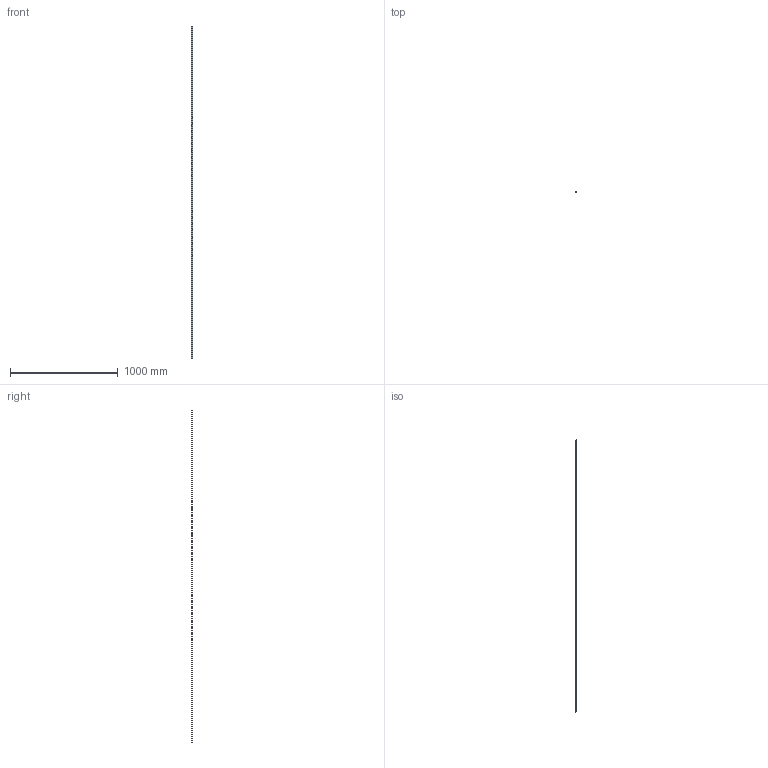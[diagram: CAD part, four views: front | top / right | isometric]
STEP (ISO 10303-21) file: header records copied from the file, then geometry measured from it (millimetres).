
FILE_DESCRIPTION(/* description */ (''),/* implementation_level */ '2;1');
FILE_NAME(/* name */ 'WZ22987_1900686_1900696_dwg.stp',/* time_stamp */ '2019-06-11T13:06:09+02:00',/* author */ (''),/* organization */ (''),/* preprocessor_version */ 'ST-DEVELOPER v16.7',/* originating_system */ 'SIEMENS PLM Software NX 12.0',/* authorisation */ '');
FILE_SCHEMA (('AUTOMOTIVE_DESIGN { 1 0 10303 214 3 1 1 1 }'));
Length unit declared in the file: millimetre
Products named in the file (1): p.sc21B4B528x4ij
Bounding box: 17.5 x 7 x 3080 mm (x, y, z)
Volume: 131579.6 mm3; surface area: 191095.8 mm2
Topology: 1 solids, 1 shells, 38 faces, 108 edges, 72 vertices
Faces by surface type: cylinder 22, plane 16
Entity records: 1288 total; most frequent: DIRECTION 230, CARTESIAN_POINT 219, ORIENTED_EDGE 216, EDGE_CURVE 108, AXIS2_PLACEMENT_3D 83, VERTEX_POINT 72, LINE 64, VECTOR 64
